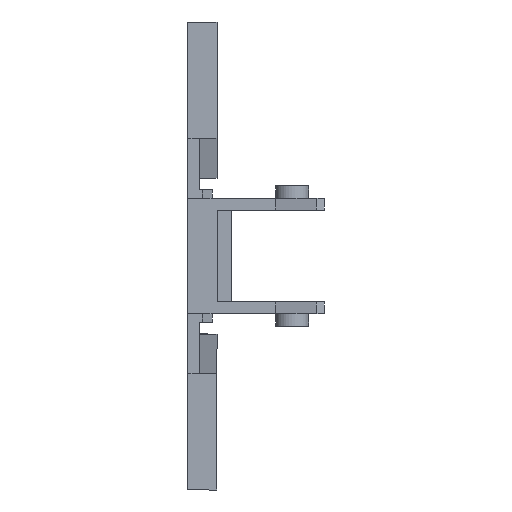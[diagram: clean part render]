
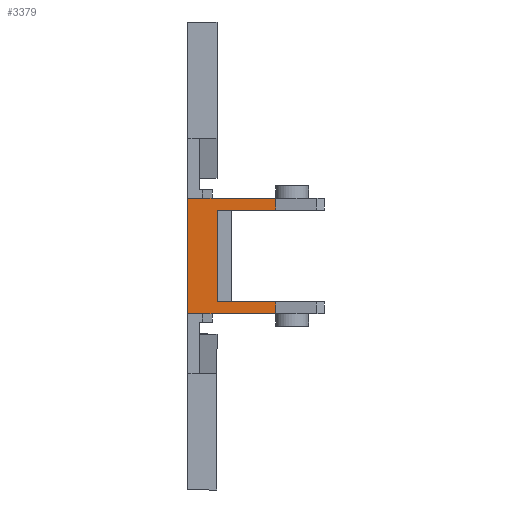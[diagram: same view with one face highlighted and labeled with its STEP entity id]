
A CAD part, front view. The second image highlights one B-rep face of the part: STEP entity #3379.
In plain terms, the highlighted planar face has unit normal (0, -1, 0).
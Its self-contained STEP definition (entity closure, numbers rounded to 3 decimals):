
#48 = VERTEX_POINT ( 'NONE', #2728 ) ;
#70 = CARTESIAN_POINT ( 'NONE',  ( 9.023, -25.55, 67.733 ) ) ;
#281 = CARTESIAN_POINT ( 'NONE',  ( 14., -25.55, -5.9 ) ) ;
#293 = DIRECTION ( 'NONE',  ( -1., 0., 0. ) ) ;
#410 = DIRECTION ( 'NONE',  ( -1., 0., 0. ) ) ;
#448 = EDGE_LOOP ( 'NONE', ( #1977, #2797, #1981, #2992, #1262, #1144, #2846, #3181 ) ) ;
#576 = DIRECTION ( 'NONE',  ( 0., 0., -1. ) ) ;
#625 = LINE ( 'NONE', #928, #880 ) ;
#628 = CARTESIAN_POINT ( 'NONE',  ( 3., -25.55, 4.7 ) ) ;
#669 = CARTESIAN_POINT ( 'NONE',  ( 14., -25.55, 5.9 ) ) ;
#719 = CARTESIAN_POINT ( 'NONE',  ( 9.023, -25.55, 5.9 ) ) ;
#793 = CARTESIAN_POINT ( 'NONE',  ( 0., -25.55, -5.9 ) ) ;
#796 = VERTEX_POINT ( 'NONE', #719 ) ;
#880 = VECTOR ( 'NONE', #1782, 1000. ) ;
#928 = CARTESIAN_POINT ( 'NONE',  ( 1.5, -25.55, -5.9 ) ) ;
#949 = CARTESIAN_POINT ( 'NONE',  ( 9.023, -25.55, 4.7 ) ) ;
#1078 = LINE ( 'NONE', #1666, #2845 ) ;
#1144 = ORIENTED_EDGE ( 'NONE', *, *, #1316, .T. ) ;
#1167 = VERTEX_POINT ( 'NONE', #949 ) ;
#1182 = CARTESIAN_POINT ( 'NONE',  ( 0., -25.55, 5.9 ) ) ;
#1205 = LINE ( 'NONE', #669, #2127 ) ;
#1210 = VERTEX_POINT ( 'NONE', #2574 ) ;
#1252 = CARTESIAN_POINT ( 'NONE',  ( 3., -25.55, -5.9 ) ) ;
#1262 = ORIENTED_EDGE ( 'NONE', *, *, #1942, .T. ) ;
#1316 = EDGE_CURVE ( 'NONE', #1584, #2997, #625, .T. ) ;
#1506 = DIRECTION ( 'NONE',  ( 0., 0., -1. ) ) ;
#1528 = LINE ( 'NONE', #1951, #2716 ) ;
#1584 = VERTEX_POINT ( 'NONE', #793 ) ;
#1666 = CARTESIAN_POINT ( 'NONE',  ( 14., -25.55, -4.7 ) ) ;
#1672 = DIRECTION ( 'NONE',  ( 1., 0., 0. ) ) ;
#1708 = AXIS2_PLACEMENT_3D ( 'NONE', #281, #3031, #293 ) ;
#1782 = DIRECTION ( 'NONE',  ( 1., 0., 0. ) ) ;
#1796 = EDGE_CURVE ( 'NONE', #48, #2997, #2152, .T. ) ;
#1938 = VECTOR ( 'NONE', #1672, 1000. ) ;
#1942 = EDGE_CURVE ( 'NONE', #3068, #1584, #2297, .T. ) ;
#1951 = CARTESIAN_POINT ( 'NONE',  ( 9.023, -25.55, 67.733 ) ) ;
#1966 = VECTOR ( 'NONE', #2009, 1000. ) ;
#1977 = ORIENTED_EDGE ( 'NONE', *, *, #3291, .F. ) ;
#1981 = ORIENTED_EDGE ( 'NONE', *, *, #2954, .F. ) ;
#1987 = LINE ( 'NONE', #2243, #1938 ) ;
#2009 = DIRECTION ( 'NONE',  ( 0., 0., -1. ) ) ;
#2069 = EDGE_CURVE ( 'NONE', #1210, #48, #1078, .T. ) ;
#2127 = VECTOR ( 'NONE', #410, 1000. ) ;
#2130 = VECTOR ( 'NONE', #1506, 1000. ) ;
#2152 = LINE ( 'NONE', #70, #1966 ) ;
#2243 = CARTESIAN_POINT ( 'NONE',  ( 14., -25.55, 4.7 ) ) ;
#2297 = LINE ( 'NONE', #3383, #2130 ) ;
#2315 = EDGE_CURVE ( 'NONE', #796, #3068, #1205, .T. ) ;
#2574 = CARTESIAN_POINT ( 'NONE',  ( 3., -25.55, -4.7 ) ) ;
#2716 = VECTOR ( 'NONE', #576, 1000. ) ;
#2728 = CARTESIAN_POINT ( 'NONE',  ( 9.023, -25.55, -4.7 ) ) ;
#2756 = DIRECTION ( 'NONE',  ( 1., 0., 0. ) ) ;
#2793 = FACE_OUTER_BOUND ( 'NONE', #448, .T. ) ;
#2797 = ORIENTED_EDGE ( 'NONE', *, *, #3013, .T. ) ;
#2845 = VECTOR ( 'NONE', #2756, 1000. ) ;
#2846 = ORIENTED_EDGE ( 'NONE', *, *, #1796, .F. ) ;
#2924 = VECTOR ( 'NONE', #3155, 1000. ) ;
#2954 = EDGE_CURVE ( 'NONE', #796, #1167, #1528, .T. ) ;
#2992 = ORIENTED_EDGE ( 'NONE', *, *, #2315, .T. ) ;
#2997 = VERTEX_POINT ( 'NONE', #3052 ) ;
#2999 = LINE ( 'NONE', #1252, #2924 ) ;
#3006 = PLANE ( 'NONE',  #1708 ) ;
#3013 = EDGE_CURVE ( 'NONE', #3117, #1167, #1987, .T. ) ;
#3031 = DIRECTION ( 'NONE',  ( 0., -1., 0. ) ) ;
#3052 = CARTESIAN_POINT ( 'NONE',  ( 9.023, -25.55, -5.9 ) ) ;
#3068 = VERTEX_POINT ( 'NONE', #1182 ) ;
#3117 = VERTEX_POINT ( 'NONE', #628 ) ;
#3155 = DIRECTION ( 'NONE',  ( 0., 0., -1. ) ) ;
#3181 = ORIENTED_EDGE ( 'NONE', *, *, #2069, .F. ) ;
#3291 = EDGE_CURVE ( 'NONE', #3117, #1210, #2999, .T. ) ;
#3379 = ADVANCED_FACE ( 'NONE', ( #2793 ), #3006, .T. ) ;
#3383 = CARTESIAN_POINT ( 'NONE',  ( 0., -25.55, 15.37 ) ) ;
